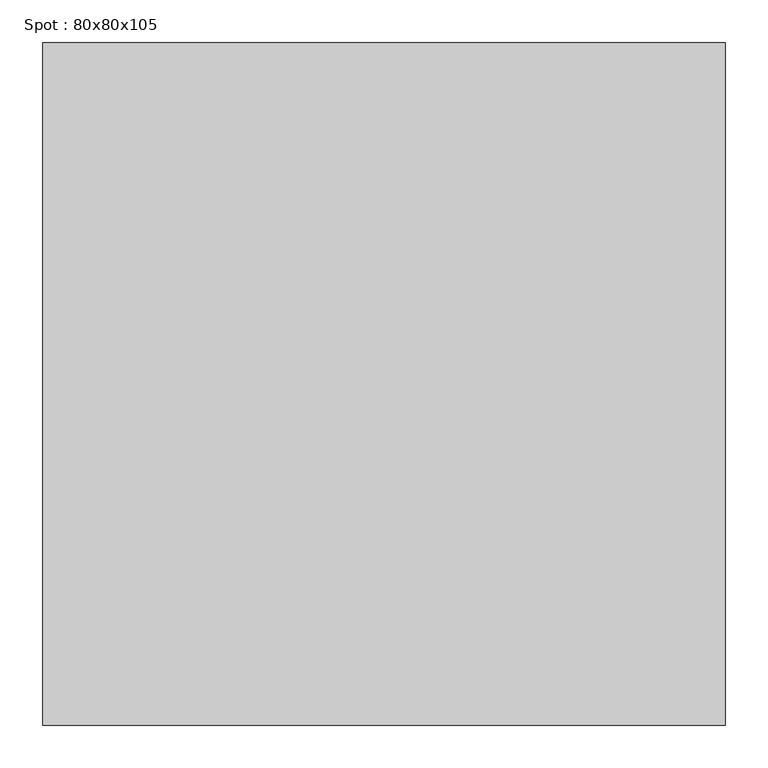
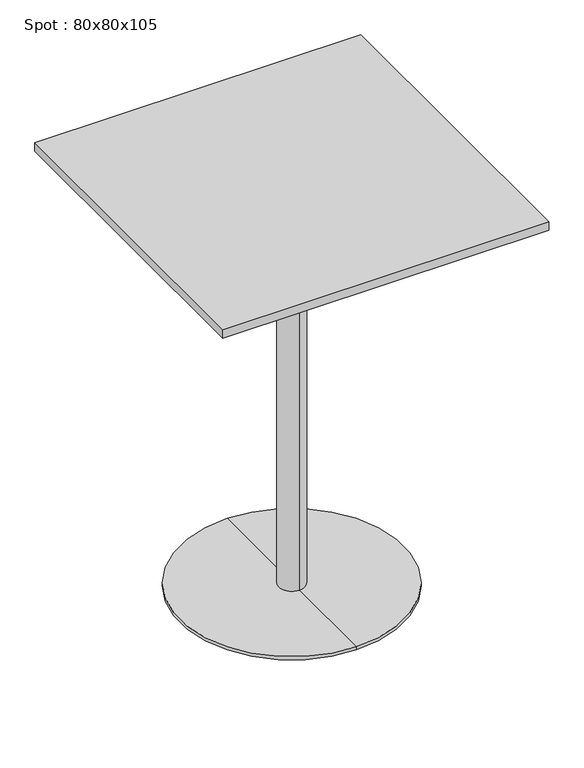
"""IFC4 building model written with IfcOpenShell, lengths in millimetres: furniture geometry, Spot : 80x80x105."""

from ifc_helpers import new_model, si_unit, frame, origin, place, context, project, spatial, polyline, circle_curve, outline, extrude, source, transform, mapped, element, save
from ifc_brep_helpers import plane_surface, cylinder_surface, revolved_surface, advanced_brep


def spot_80x80x105_011185f3(model_context):
    return source(origin(), model_context, "Body", "SolidModel", [
        extrude(outline(polyline([(400.0, 400.0), (400.0, -400.0), (-400.0, -400.0), (-400.0, 400.0), (400.0, 400.0)])), frame((0.0, 0.0, 1028.0), z_axis=(0.0, 0.0, 1.0), x_axis=(1.0, 0.0, 0.0)), (0.0, 0.0, 1.0), 22.0),
        advanced_brep(
        [(0.0, 32.0, 10.0), (0.0, -32.0, 10.0), (0.0, -32.0, 997.406916), (0.0, 32.0, 997.406916), (0.0, 275.0, 10.0), (0.0, -275.0, 10.0), (0.0, 275.0, 2.0), (0.0, -275.0, 2.0), (0.0, 0.0, 2.0), (0.0, 150.0, 1028.0), (0.0, -150.0, 1028.0), (0.0, 0.0, 1028.0), (0.0, 150.0, 1016.7213673), (0.0, -150.0, 1016.7213673)],
        [
            (0, 1, circle_curve(frame((0.0, 0.0, 10.0), z_axis=(0.0, 0.0, 1.0), x_axis=(0.0, -1.0, 0.0)), 32.0)),
            (1, 2),
            (2, 3, circle_curve(frame((0.0, 0.0, 997.406916), z_axis=(0.0, 0.0, -1.0), x_axis=(0.0, -1.0, 0.0)), 32.0)),
            (3, 0),
            (1, 0, circle_curve(frame((0.0, 0.0, 10.0), z_axis=(0.0, 0.0, 1.0), x_axis=(0.0, -1.0, 0.0)), 32.0)),
            (3, 2, circle_curve(frame((0.0, 0.0, 997.406916), z_axis=(0.0, 0.0, -1.0), x_axis=(0.0, -1.0, 0.0)), 32.0)),
            (4, 5, circle_curve(frame((0.0, 0.0, 10.0), z_axis=(0.0, 0.0, 1.0), x_axis=(0.0, -1.0, 0.0)), 275.0)),
            (5, 1),
            (0, 4),
            (5, 4, circle_curve(frame((0.0, 0.0, 10.0), z_axis=(0.0, 0.0, 1.0), x_axis=(0.0, -1.0, 0.0)), 275.0)),
            (6, 7, circle_curve(frame((0.0, 0.0, 2.0), z_axis=(0.0, 0.0, 1.0), x_axis=(0.0, -1.0, 0.0)), 275.0)),
            (7, 5),
            (4, 6),
            (7, 6, circle_curve(frame((0.0, 0.0, 2.0), z_axis=(0.0, 0.0, 1.0), x_axis=(0.0, -1.0, 0.0)), 275.0)),
            (8, 7),
            (6, 8),
            (9, 10, circle_curve(frame((0.0, 0.0, 1028.0), z_axis=(0.0, 0.0, 1.0), x_axis=(0.0, -1.0, 0.0)), 150.0)),
            (10, 11),
            (11, 9),
            (10, 9, circle_curve(frame((0.0, 0.0, 1028.0), z_axis=(0.0, 0.0, 1.0), x_axis=(0.0, -1.0, 0.0)), 150.0)),
            (12, 13, circle_curve(frame((0.0, 0.0, 1016.7213673), z_axis=(0.0, 0.0, 1.0), x_axis=(0.0, -1.0, 0.0)), 150.0)),
            (13, 10),
            (9, 12),
            (13, 12, circle_curve(frame((0.0, 0.0, 1016.7213673), z_axis=(0.0, 0.0, 1.0), x_axis=(0.0, -1.0, 0.0)), 150.0)),
            (2, 13),
            (12, 3),
        ],
        [
            cylinder_surface(frame((0.0, 0.0, 1390.0), z_axis=(0.0, 0.0, -1.0), x_axis=(0.0, -1.0, 0.0)), 32.0),
            plane_surface(frame((0.0, 0.0, 10.0), z_axis=(0.0, 0.0, 1.0), x_axis=(0.0, -1.0, 0.0))),
            cylinder_surface(frame((0.0, 0.0, 1390.0), z_axis=(0.0, 0.0, -1.0), x_axis=(0.0, -1.0, 0.0)), 275.0),
            plane_surface(frame((0.0, 0.0, 2.0), z_axis=(0.0, 0.0, -1.0), x_axis=(0.0, -1.0, 0.0))),
            plane_surface(frame((0.0, 0.0, 1028.0), z_axis=(0.0, 0.0, 1.0), x_axis=(0.0, -1.0, 0.0))),
            cylinder_surface(frame((0.0, 0.0, 1390.0), z_axis=(0.0, 0.0, -1.0), x_axis=(0.0, -1.0, 0.0)), 150.0),
            revolved_surface(polyline([(0.0, -150.0, 1016.7213673), (0.0, -32.0, 997.406916)]), (0.0, 0.0, 1390.0), (0.0, 0.0, -1.0)),
        ],
        [
            (0, [[1, 2, 3, 4]]),
            (0, [[5, -4, 6, -2]]),
            (1, [[7, 8, -1, 9]]),
            (1, [[10, -9, -5, -8]]),
            (2, [[11, 12, -7, 13]]),
            (2, [[14, -13, -10, -12]]),
            (3, [[15, -11, 16]]),
            (3, [[-16, -14, -15]]),
            (4, [[17, 18, 19]]),
            (4, [[20, -19, -18]]),
            (5, [[21, 22, -17, 23]]),
            (5, [[24, -23, -20, -22]]),
            (6, [[-3, 25, -21, 26]]),
            (6, [[-6, -26, -24, -25]]),
        ],
    ),
    ])


if __name__ == "__main__":
    model = new_model("IFC4")
    model_context = context("Model", 3, world=origin())
    ifc_project = project(units=[si_unit("LENGTHUNIT", "METRE", prefix="MILLI")], contexts=[model_context])
    site = spatial("IfcSite", under=ifc_project)
    building = spatial("IfcBuilding", under=site)
    placement = place(None, origin())
    spot_80x80x105_shape = spot_80x80x105_011185f3(model_context)
    element("IfcFurniture", 1, ObjectType="Spot : 80x80x105", at=placement, inside=building, context=model_context, shape_type="MappedRepresentation", body=[
        mapped(spot_80x80x105_shape, transform((0.0, 0.0, 0.0), x_axis=(1.0, 0.0, 0.0), y_axis=(0.0, 1.0, 0.0), z_axis=(0.0, 0.0, 1.0))),
    ])
    save(model, "model.ifc")
